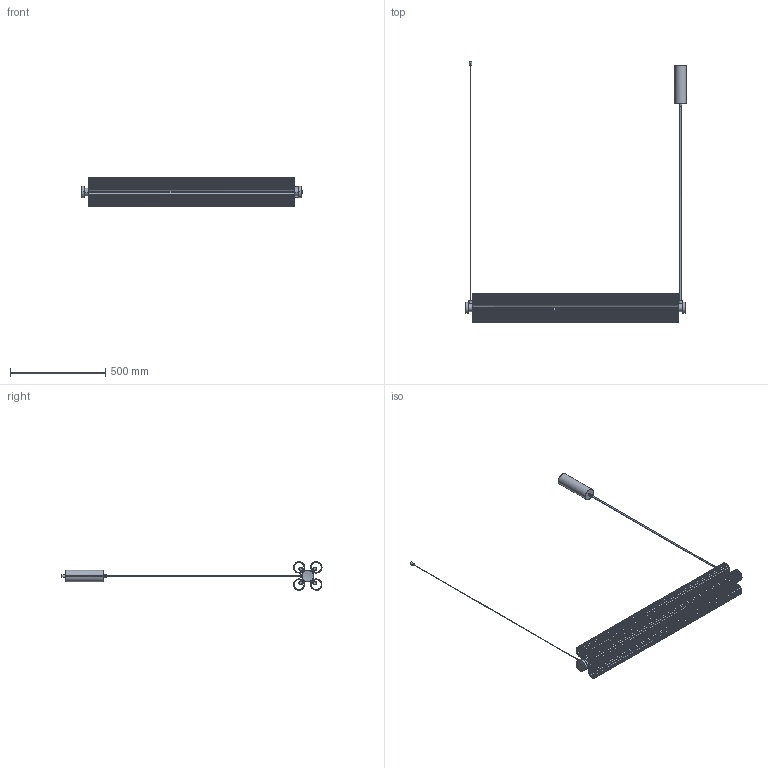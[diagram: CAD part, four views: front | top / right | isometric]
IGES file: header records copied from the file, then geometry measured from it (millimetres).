
Start section: SolidWorks IGES file using analytic representation for surfaces
Global section: file name: \\ARNOLD\compartida\Nueva Coleccion Septiembre 2026\RYST_1369\C1369_L\3D\RYST_C1359.IGS; native system: SolidWorks 2023; preprocessor: SolidWorks 2023; author: adrian; date: 260828.092318; units: millimetre
Bounding box: 1156.03 x 1362.25 x 149.52 mm (x, y, z)
Surface area: 2910226.8 mm2 (no closed solid volume)
Topology: 0 solids, 0 shells, 1019 faces, 11789 edges, 11789 vertices
Faces by surface type: bspline 743, revolution 276
